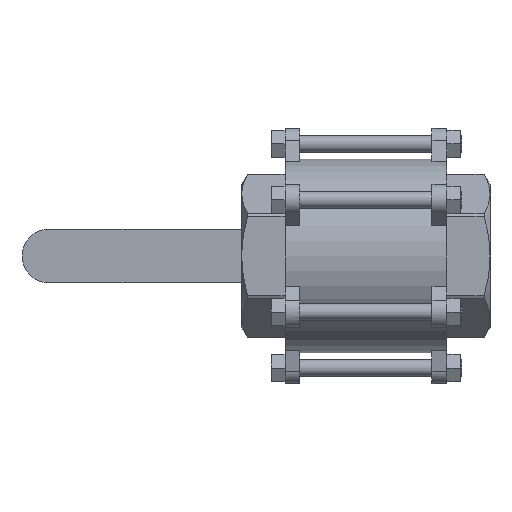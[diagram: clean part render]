
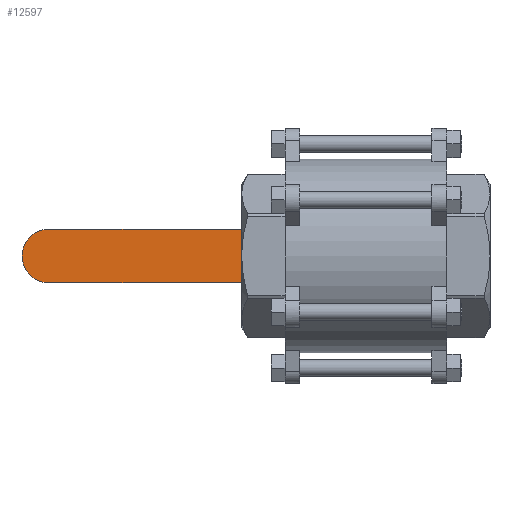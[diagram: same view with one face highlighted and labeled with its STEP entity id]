
A CAD part, front view. The second image highlights one B-rep face of the part: STEP entity #12597.
In plain terms, the highlighted planar face has unit normal (0, -1, 0).
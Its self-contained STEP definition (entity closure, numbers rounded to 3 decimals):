
#149 = CARTESIAN_POINT ( 'NONE',  ( -278.5, 159.5, -23.5 ) ) ;
#582 = EDGE_CURVE ( 'NONE', #9363, #2180, #11371, .T. ) ;
#657 = VECTOR ( 'NONE', #2164, 1000. ) ;
#1088 = ORIENTED_EDGE ( 'NONE', *, *, #10846, .F. ) ;
#1163 = CARTESIAN_POINT ( 'NONE',  ( -302., 159.5, 23.5 ) ) ;
#1454 = CIRCLE ( 'NONE', #2348, 23.5 ) ;
#1462 = AXIS2_PLACEMENT_3D ( 'NONE', #5965, #6955, #4024 ) ;
#2058 = PLANE ( 'NONE',  #1462 ) ;
#2164 = DIRECTION ( 'NONE',  ( -1., 0., 0. ) ) ;
#2180 = VERTEX_POINT ( 'NONE', #2572 ) ;
#2348 = AXIS2_PLACEMENT_3D ( 'NONE', #5726, #12613, #6740 ) ;
#2430 = DIRECTION ( 'NONE',  ( 0., 0., -1. ) ) ;
#2572 = CARTESIAN_POINT ( 'NONE',  ( -97., 159.5, -23.5 ) ) ;
#3218 = VECTOR ( 'NONE', #2430, 1000. ) ;
#3697 = CARTESIAN_POINT ( 'NONE',  ( -302., 159.5, -23.5 ) ) ;
#4024 = DIRECTION ( 'NONE',  ( 0., 0., 1. ) ) ;
#4229 = ORIENTED_EDGE ( 'NONE', *, *, #6793, .T. ) ;
#4395 = CARTESIAN_POINT ( 'NONE',  ( -97., 159.5, 229.119 ) ) ;
#4976 = LINE ( 'NONE', #3697, #7930 ) ;
#5030 = ORIENTED_EDGE ( 'NONE', *, *, #11558, .T. ) ;
#5726 = CARTESIAN_POINT ( 'NONE',  ( -278.5, 159.5, 0. ) ) ;
#5965 = CARTESIAN_POINT ( 'NONE',  ( -302., 159.5, 229.119 ) ) ;
#6740 = DIRECTION ( 'NONE',  ( 0., 0., 1. ) ) ;
#6787 = EDGE_LOOP ( 'NONE', ( #5030, #1088, #4229, #6922 ) ) ;
#6793 = EDGE_CURVE ( 'NONE', #7048, #2180, #4976, .T. ) ;
#6922 = ORIENTED_EDGE ( 'NONE', *, *, #582, .F. ) ;
#6955 = DIRECTION ( 'NONE',  ( 0., 1., 0. ) ) ;
#7048 = VERTEX_POINT ( 'NONE', #149 ) ;
#7156 = VERTEX_POINT ( 'NONE', #9179 ) ;
#7930 = VECTOR ( 'NONE', #9610, 1000. ) ;
#8521 = LINE ( 'NONE', #1163, #657 ) ;
#8957 = FACE_OUTER_BOUND ( 'NONE', #6787, .T. ) ;
#9179 = CARTESIAN_POINT ( 'NONE',  ( -278.5, 159.5, 23.5 ) ) ;
#9363 = VERTEX_POINT ( 'NONE', #11008 ) ;
#9610 = DIRECTION ( 'NONE',  ( 1., 0., 0. ) ) ;
#10846 = EDGE_CURVE ( 'NONE', #7048, #7156, #1454, .T. ) ;
#11008 = CARTESIAN_POINT ( 'NONE',  ( -97., 159.5, 23.5 ) ) ;
#11371 = LINE ( 'NONE', #4395, #3218 ) ;
#11558 = EDGE_CURVE ( 'NONE', #9363, #7156, #8521, .T. ) ;
#12597 = ADVANCED_FACE ( 'NONE', ( #8957 ), #2058, .F. ) ;
#12613 = DIRECTION ( 'NONE',  ( 0., 1., 0. ) ) ;
